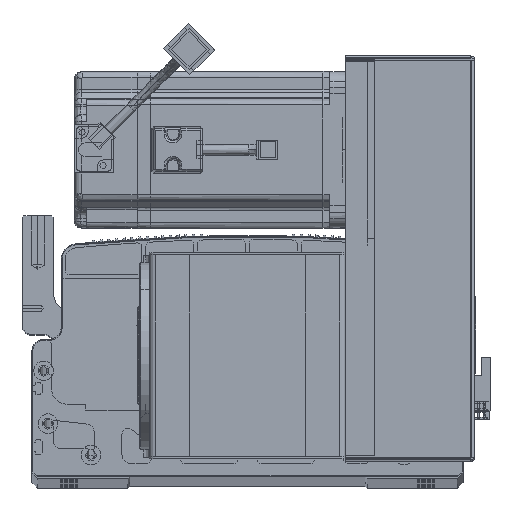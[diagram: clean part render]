
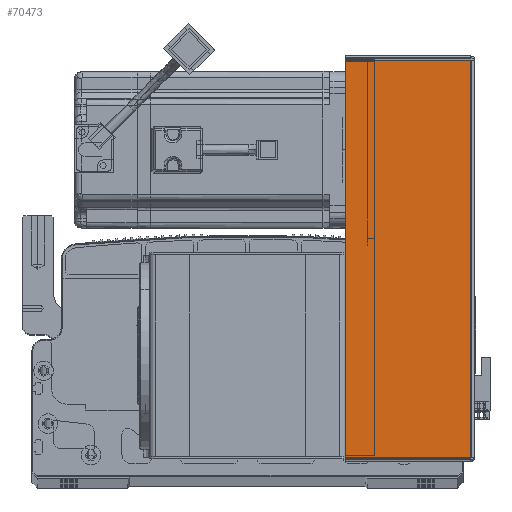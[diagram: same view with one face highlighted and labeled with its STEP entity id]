
A CAD part, top view. The second image highlights one B-rep face of the part: STEP entity #70473.
In plain terms, the highlighted planar face has unit normal (0, 0, 1) as drawn and (0, -1, 0) by its records, which use the part's own axes.
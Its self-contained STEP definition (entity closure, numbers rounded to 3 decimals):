
#3739 = DIRECTION ( 'NONE',  ( -1., 0., 0. ) ) ;
#3890 = VECTOR ( 'NONE', #52773, 1000. ) ;
#4019 = FACE_OUTER_BOUND ( 'NONE', #44034, .T. ) ;
#6525 = CARTESIAN_POINT ( 'NONE',  ( 0., -1.5, -0.707 ) ) ;
#9872 = VERTEX_POINT ( 'NONE', #12874 ) ;
#10269 = ORIENTED_EDGE ( 'NONE', *, *, #69690, .F. ) ;
#10916 = EDGE_CURVE ( 'NONE', #54818, #87466, #11037, .T. ) ;
#10957 = CARTESIAN_POINT ( 'NONE',  ( 64.5, -1.5, -0.707 ) ) ;
#11037 = LINE ( 'NONE', #83196, #3890 ) ;
#12874 = CARTESIAN_POINT ( 'NONE',  ( 0.737, -1.5, -0.707 ) ) ;
#19415 = ORIENTED_EDGE ( 'NONE', *, *, #80689, .T. ) ;
#20715 = LINE ( 'NONE', #6525, #75177 ) ;
#21640 = CARTESIAN_POINT ( 'NONE',  ( 0.737, -1.5, -203.293 ) ) ;
#24643 = LINE ( 'NONE', #57577, #55383 ) ;
#28809 = DIRECTION ( 'NONE',  ( 0., 0., 1. ) ) ;
#30947 = CARTESIAN_POINT ( 'NONE',  ( 0.737, -1.5, 0. ) ) ;
#34327 = VECTOR ( 'NONE', #45481, 1000. ) ;
#44034 = EDGE_LOOP ( 'NONE', ( #77897, #46136, #19415, #10269 ) ) ;
#44435 = AXIS2_PLACEMENT_3D ( 'NONE', #70548, #71206, #3739 ) ;
#45481 = DIRECTION ( 'NONE',  ( 0., 0., 1. ) ) ;
#46136 = ORIENTED_EDGE ( 'NONE', *, *, #10916, .T. ) ;
#51143 = EDGE_CURVE ( 'NONE', #54818, #9872, #54409, .T. ) ;
#52773 = DIRECTION ( 'NONE',  ( 1., 0., 0. ) ) ;
#54409 = LINE ( 'NONE', #30947, #34327 ) ;
#54818 = VERTEX_POINT ( 'NONE', #21640 ) ;
#55383 = VECTOR ( 'NONE', #28809, 1000. ) ;
#57577 = CARTESIAN_POINT ( 'NONE',  ( 64.5, -1.5, 0. ) ) ;
#69690 = EDGE_CURVE ( 'NONE', #9872, #91149, #20715, .T. ) ;
#70473 = ADVANCED_FACE ( 'NONE', ( #4019 ), #85756, .F. ) ;
#70548 = CARTESIAN_POINT ( 'NONE',  ( 0., -1.5, 0. ) ) ;
#71206 = DIRECTION ( 'NONE',  ( 0., 1., 0. ) ) ;
#73355 = DIRECTION ( 'NONE',  ( 1., 0., 0. ) ) ;
#75177 = VECTOR ( 'NONE', #73355, 1000. ) ;
#77897 = ORIENTED_EDGE ( 'NONE', *, *, #51143, .F. ) ;
#80689 = EDGE_CURVE ( 'NONE', #87466, #91149, #24643, .T. ) ;
#83196 = CARTESIAN_POINT ( 'NONE',  ( 0., -1.5, -203.293 ) ) ;
#85756 = PLANE ( 'NONE',  #44435 ) ;
#87466 = VERTEX_POINT ( 'NONE', #97477 ) ;
#91149 = VERTEX_POINT ( 'NONE', #10957 ) ;
#97477 = CARTESIAN_POINT ( 'NONE',  ( 64.5, -1.5, -203.293 ) ) ;
